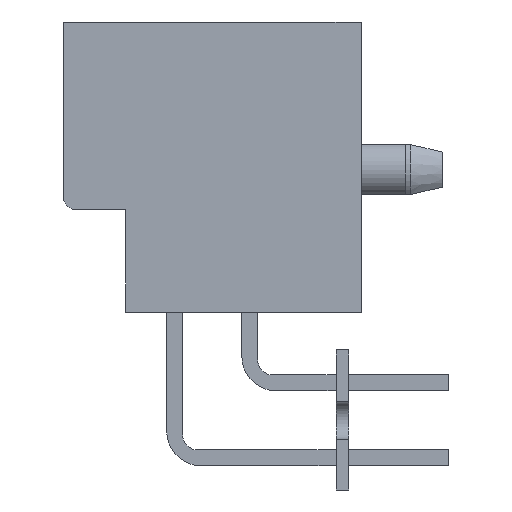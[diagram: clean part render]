
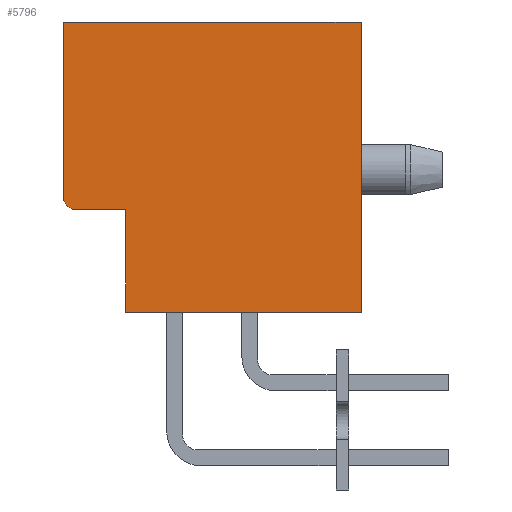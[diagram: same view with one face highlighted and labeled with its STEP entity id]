
A CAD part, left-side view. The second image highlights one B-rep face of the part: STEP entity #5796.
In plain terms, the highlighted planar face has unit normal (-1, 0, 0).
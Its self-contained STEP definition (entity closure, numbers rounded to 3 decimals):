
#81=DIRECTION('',(0.,-1.,0.));
#82=VECTOR('',#81,9.4);
#83=CARTESIAN_POINT('',(-8.,3.45,-5.8));
#84=LINE('',#83,#82);
#1769=DIRECTION('',(0.,-1.,0.));
#1770=VECTOR('',#1769,11.9);
#1771=CARTESIAN_POINT('',(-8.,5.95,5.8));
#1772=LINE('',#1771,#1770);
#1801=CARTESIAN_POINT('',(-8.,5.45,-1.2));
#1802=DIRECTION('',(1.,0.,0.));
#1803=DIRECTION('',(0.,0.,-1.));
#1804=AXIS2_PLACEMENT_3D('',#1801,#1802,#1803);
#1806=DIRECTION('',(0.,0.,1.));
#1807=VECTOR('',#1806,7.);
#1808=CARTESIAN_POINT('',(-8.,5.95,-1.2));
#1809=LINE('',#1808,#1807);
#1810=DIRECTION('',(0.,0.,1.));
#1811=VECTOR('',#1810,4.1);
#1812=CARTESIAN_POINT('',(-8.,3.45,-5.8));
#1813=LINE('',#1812,#1811);
#1814=DIRECTION('',(0.,-1.,0.));
#1815=VECTOR('',#1814,2.);
#1816=CARTESIAN_POINT('',(-8.,5.45,-1.7));
#1817=LINE('',#1816,#1815);
#1914=DIRECTION('',(0.,0.,1.));
#1915=VECTOR('',#1914,11.6);
#1916=CARTESIAN_POINT('',(-8.,-5.95,-5.8));
#1917=LINE('',#1916,#1915);
#2343=CARTESIAN_POINT('',(-8.,5.95,5.8));
#2344=CARTESIAN_POINT('',(-8.,-5.95,5.8));
#2345=VERTEX_POINT('',#2343);
#2346=VERTEX_POINT('',#2344);
#2351=CARTESIAN_POINT('',(-8.,-5.95,-5.8));
#2352=VERTEX_POINT('',#2351);
#2355=CARTESIAN_POINT('',(-8.,3.45,-5.8));
#2357=VERTEX_POINT('',#2355);
#2359=CARTESIAN_POINT('',(-8.,5.45,-1.7));
#2360=CARTESIAN_POINT('',(-8.,5.95,-1.2));
#2361=VERTEX_POINT('',#2359);
#2362=VERTEX_POINT('',#2360);
#2363=CARTESIAN_POINT('',(-8.,3.45,-1.7));
#2364=VERTEX_POINT('',#2363);
#5777=CARTESIAN_POINT('',(-8.,5.95,-5.8));
#5778=DIRECTION('',(-1.,0.,0.));
#5779=DIRECTION('',(0.,-1.,0.));
#5780=AXIS2_PLACEMENT_3D('',#5777,#5778,#5779);
#5781=PLANE('',#5780);
#5783=ORIENTED_EDGE('',*,*,#5782,.T.);
#5785=ORIENTED_EDGE('',*,*,#5784,.T.);
#5786=ORIENTED_EDGE('',*,*,#5760,.T.);
#5788=ORIENTED_EDGE('',*,*,#5787,.F.);
#5789=ORIENTED_EDGE('',*,*,#3102,.F.);
#5791=ORIENTED_EDGE('',*,*,#5790,.T.);
#5793=ORIENTED_EDGE('',*,*,#5792,.F.);
#5794=EDGE_LOOP('',(#5783,#5785,#5786,#5788,#5789,#5791,#5793));
#5795=FACE_OUTER_BOUND('',#5794,.F.);
#5796=ADVANCED_FACE('',(#5795),#5781,.T.);
#1805=CIRCLE('',#1804,0.5);
#3102=EDGE_CURVE('',#2357,#2352,#84,.T.);
#5760=EDGE_CURVE('',#2345,#2346,#1772,.T.);
#5782=EDGE_CURVE('',#2361,#2362,#1805,.T.);
#5784=EDGE_CURVE('',#2362,#2345,#1809,.T.);
#5787=EDGE_CURVE('',#2352,#2346,#1917,.T.);
#5790=EDGE_CURVE('',#2357,#2364,#1813,.T.);
#5792=EDGE_CURVE('',#2361,#2364,#1817,.T.);
